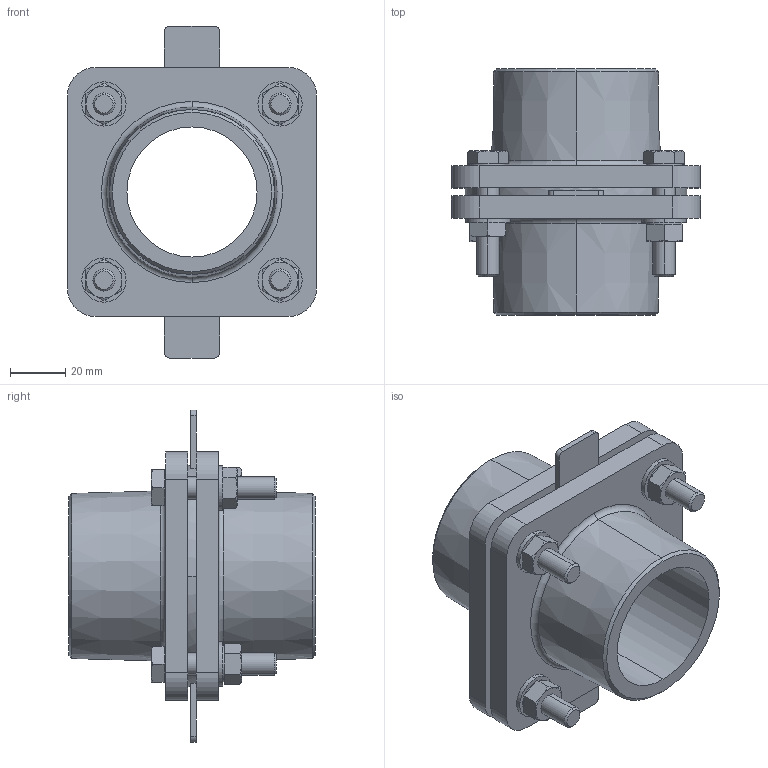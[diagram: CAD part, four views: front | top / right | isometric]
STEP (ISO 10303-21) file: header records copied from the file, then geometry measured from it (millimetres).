
FILE_DESCRIPTION (( 'STEP AP214' ), '1' );
FILE_NAME ('KP_F16-63MM.STEP', '2014-01-20T15:20:48', ( 'robinj' ), ( 'Microsoft' ), 'SwSTEP 2.0', 'SolidWorks 2014', '' );
FILE_SCHEMA (( 'AUTOMOTIVE_DESIGN' ));
Length unit declared in the file: millimetre
Products named in the file (1): KP_F16-63MM
Bounding box: 90 x 89 x 120 mm (x, y, z)
Volume: 202217.9 mm3; surface area: 59549.6 mm2
Topology: 1 solids, 1 shells, 291 faces, 648 edges, 388 vertices
Faces by surface type: plane 141, cylinder 74, cone 64, torus 12
Entity records: 9209 total; most frequent: CARTESIAN_POINT 1872, DIRECTION 1408, ORIENTED_EDGE 1296, EDGE_CURVE 648, AXIS2_PLACEMENT_3D 564, VERTEX_POINT 388, EDGE_LOOP 330, ADVANCED_FACE 291
